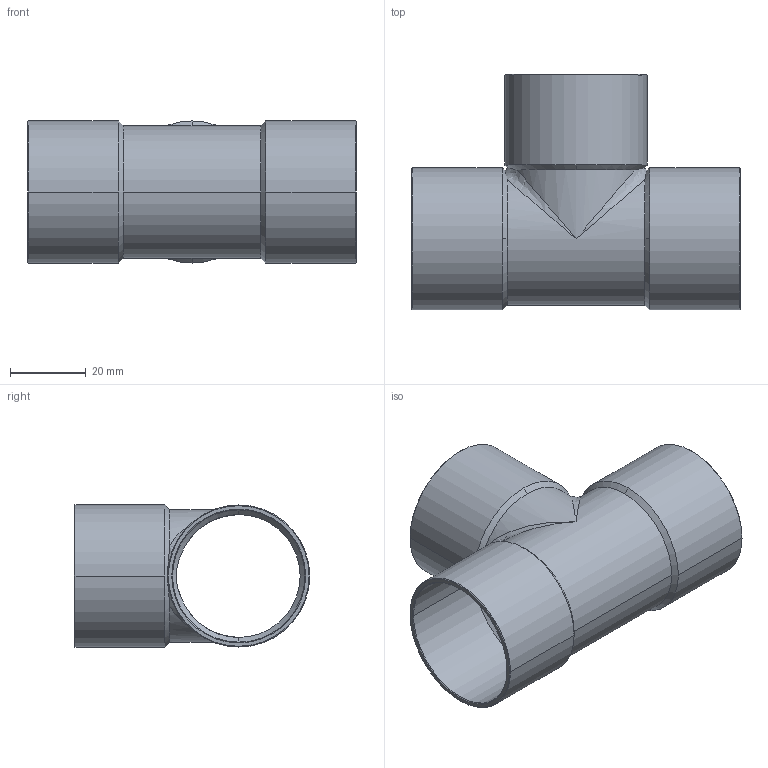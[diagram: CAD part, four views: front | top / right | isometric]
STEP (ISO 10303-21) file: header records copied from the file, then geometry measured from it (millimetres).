
FILE_DESCRIPTION((''),'2;1');
FILE_NAME('P:\Bouwmaten\z-maattekeningen 3D\5000\5130\d\513035.stp','2005-10-19T08:46:00',('Kris'),(''),'Autodesk Inventor 8','Autodesk Inventor 8','');
FILE_SCHEMA(('AUTOMOTIVE_DESIGN { 1 0 10303 214 1 1 1 1 }'));
Length unit declared in the file: millimetre
Products named in the file (1): 513035
Bounding box: 87 x 62.3 x 37.6 mm (x, y, z)
Volume: 15911.9 mm3; surface area: 24859.9 mm2
Topology: 1 solids, 1 shells, 51 faces, 142 edges, 84 vertices
Faces by surface type: cone 24, cylinder 20, bspline 4, plane 3
Entity records: 2095 total; most frequent: CARTESIAN_POINT 754, DIRECTION 310, ORIENTED_EDGE 268, AXIS2_PLACEMENT_3D 136, EDGE_CURVE 134, VERTEX_POINT 84, CIRCLE 72, EDGE_LOOP 54
